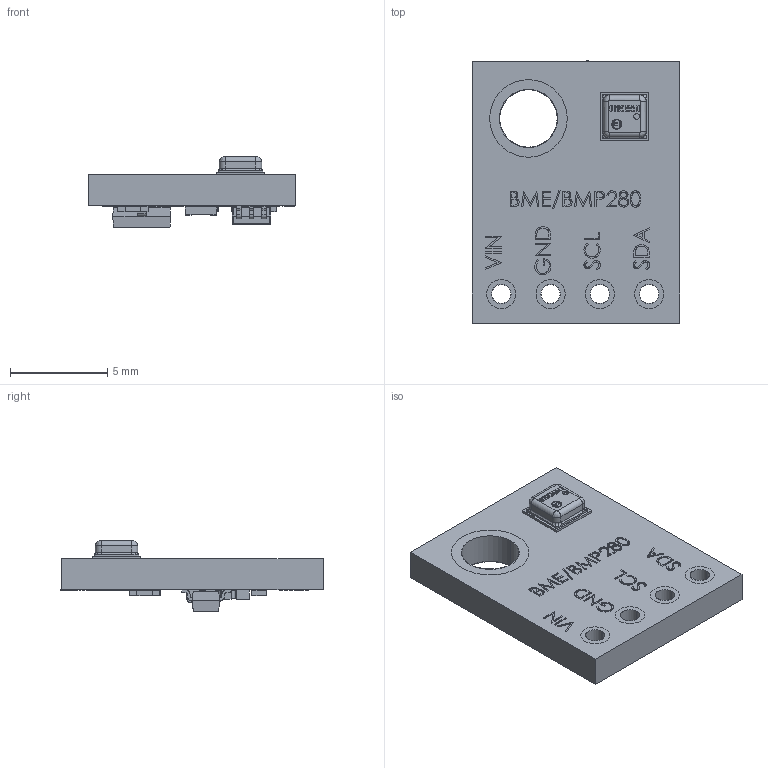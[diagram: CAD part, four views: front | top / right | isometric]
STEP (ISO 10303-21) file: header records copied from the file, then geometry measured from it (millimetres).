
FILE_DESCRIPTION (( 'STEP AP214' ), '1' );
FILE_NAME ('GY-BME280.STEP', '2019-01-20T00:19:40', ( '' ), ( '' ), 'SwSTEP 2.0', 'SolidWorks 2018', '' );
FILE_SCHEMA (( 'AUTOMOTIVE_DESIGN' ));
Length unit declared in the file: metre
Products named in the file (1): GY-BME280
Bounding box: 10.7 x 13.52 x 3.63 mm (x, y, z)
Volume: 245.5 mm3; surface area: 582.1 mm2
Topology: 42 solids, 42 shells, 1357 faces, 3518 edges, 2262 vertices
Faces by surface type: plane 721, bspline 403, cylinder 201, sphere 32
Entity records: 75182 total; most frequent: CARTESIAN_POINT 29586, ORIENTED_EDGE 6962, DIRECTION 4790, EDGE_CURVE 3481, VERTEX_POINT 2262, VECTOR 2258, LINE 2258, EDGE_LOOP 1459
